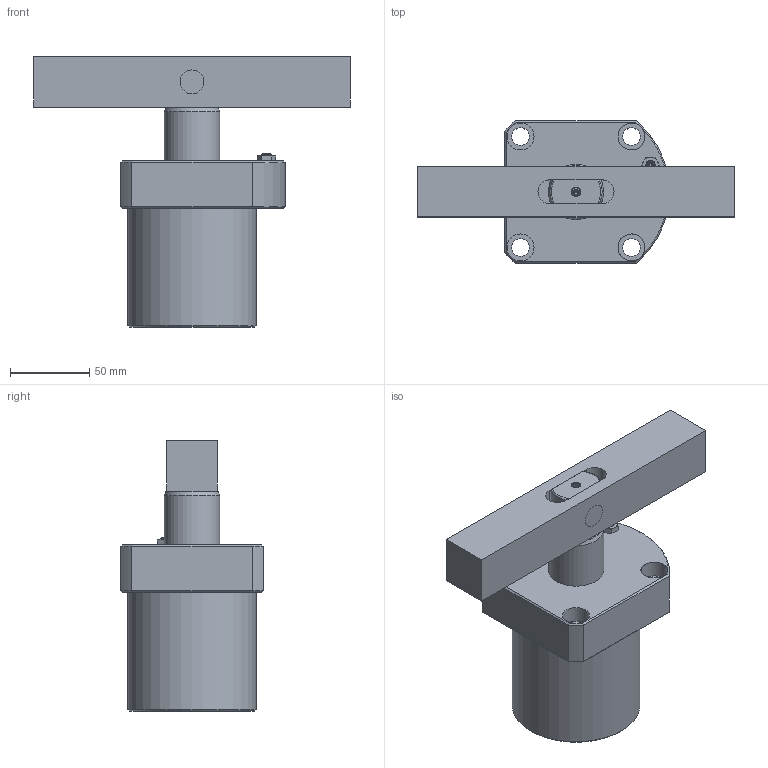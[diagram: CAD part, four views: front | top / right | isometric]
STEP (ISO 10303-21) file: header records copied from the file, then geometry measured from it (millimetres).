
FILE_DESCRIPTION(/* description */ ('Unknown'),/* implementation_level */ '2;1');
FILE_NAME(/* name */ 'HSC-FCM63D-B',/* time_stamp */ '2019-05-23T08:37:42+08:00',/* author */ ('Unknown'),/* organization */ ('Unknown'),/* preprocessor_version */ 'ST-DEVELOPER v16.7',/* originating_system */ 'DEX',/* authorisation */ $);
FILE_SCHEMA (('AUTOMOTIVE_DESIGN {1 0 10303 214 3 1 1}'));
Length unit declared in the file: millimetre
Products named in the file (5): HSC-FCM63D-B; HSC-FCM63D-CYLINDER; HSC-6302-D-AXLE CENTRE; HSC-6302-D-FIXED PIN; HSC-63D-B
Assembly tree (4 placements, depth 2):
  HSC-FCM63D-B
    HSC-FCM63D-CYLINDER
    HSC-6302-D-AXLE CENTRE
    HSC-6302-D-FIXED PIN
    HSC-63D-B
Bounding box: 200 x 90 x 170.8 mm (x, y, z)
Volume: 765486.9 mm3; surface area: 121816.5 mm2
Topology: 4 solids, 4 shells, 144 faces, 304 edges, 189 vertices
Faces by surface type: plane 60, cone 31, cylinder 31, bspline 18, torus 4
Full cylindrical faces by diameter (mm): 3.5 x2, 6 x3, 11 x4, 12 x2, 15 x4, 17 x4, 35 x2, 63 x2, 81 x1
Entity records: 3949 total; most frequent: CARTESIAN_POINT 1051, DIRECTION 546, ORIENTED_EDGE 506, EDGE_CURVE 253, AXIS2_PLACEMENT_3D 238, EDGE_LOOP 220, FACE_BOUND 220, VERTEX_POINT 177
